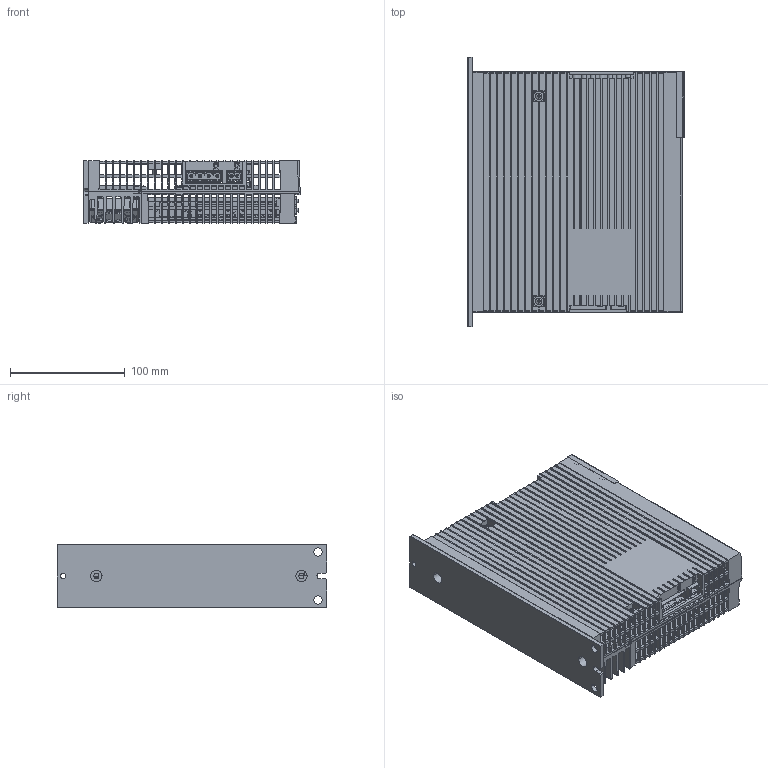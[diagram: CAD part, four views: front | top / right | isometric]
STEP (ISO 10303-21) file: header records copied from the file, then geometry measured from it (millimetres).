
FILE_DESCRIPTION(/* description */ (''),/* implementation_level */ '2;1');
FILE_NAME(/* name */ 'CB06131-001',/* time_stamp */ '2010-05-12T10:20:02+02:00',/* author */ (''),/* organization */ (''),/* preprocessor_version */ 'ST-DEVELOPER v9',/* originating_system */ 'UGS - NX 4.0',/* authorisation */ '');
FILE_SCHEMA (('AUTOMOTIVE_DESIGN { 1 0 10303 214 1 1 1 1 }'));
Products named in the file (1): sdumD643as16
Bounding box: 188.79 x 235 x 55.4 mm (x, y, z)
Volume: 416426.4 mm3; surface area: 345027.6 mm2
Topology: 31 solids, 32 shells, 6262 faces, 16849 edges, 10801 vertices
Faces by surface type: plane 4767, cylinder 1091, cone 233, bspline 109, sphere 34, torus 28
Entity records: 242988 total; most frequent: CARTESIAN_POINT 41174, ORIENTED_EDGE 33594, DIRECTION 31071, EDGE_CURVE 16797, LINE 13683, VECTOR 13683, VERTEX_POINT 10800, AXIS2_PLACEMENT_3D 8694
